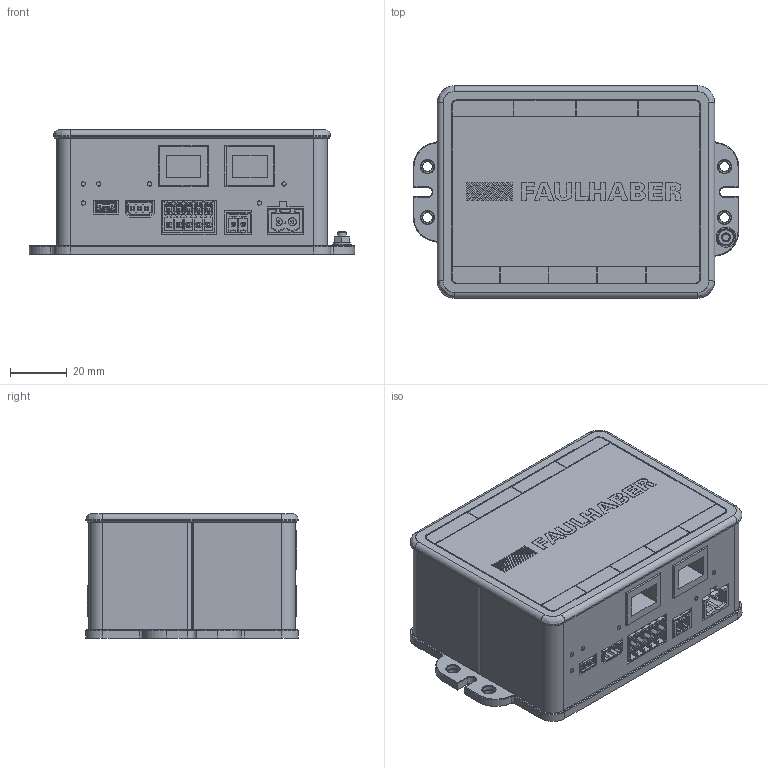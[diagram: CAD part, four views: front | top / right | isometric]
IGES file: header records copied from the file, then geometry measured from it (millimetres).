
Global section: file name: D:\Daten-Huge\PLM_Export\A_Internet_Modelle\Sonstiges\Controller_Platinen\CONTROLLER MC50xx S ET.igs; native system: NX V8.5; preprocessor: SIEMENS PLM Software NX 8.5; author: DR. FRITZ FAULHABER GmbH & Co. KG; organization: DR. FRITZ FAULHABER GmbH & Co. KG; date: 20160302.101038; units: millimetre
Bounding box: 115 x 75 x 44 mm (x, y, z)
Surface area: 47934.5 mm2 (no closed solid volume)
Topology: 0 solids, 0 shells, 3356 faces, 19153 edges, 19082 vertices
Faces by surface type: bspline 3356
